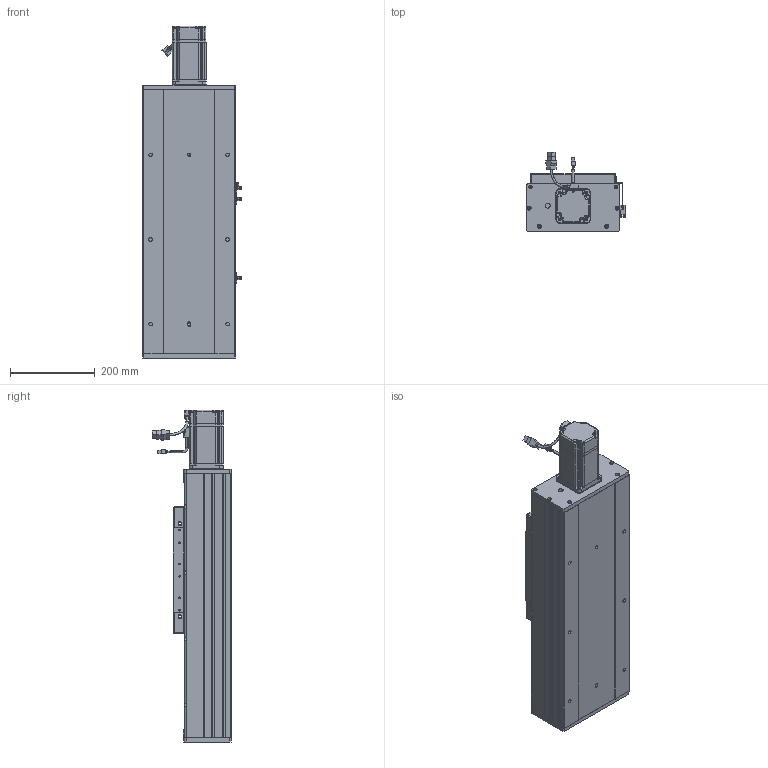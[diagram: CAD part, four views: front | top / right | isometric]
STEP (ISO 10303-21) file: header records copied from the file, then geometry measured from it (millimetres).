
FILE_DESCRIPTION (( 'STEP AP203' ), '1' );
FILE_NAME ('RY220F-L2525-300-MK.SLDASM_200.step', '2022-07-04T01:03:08', ( '' ), ( '' ), 'SwSTEP 2.0', 'SolidWorks 2016', '' );
FILE_SCHEMA (( 'CONFIG_CONTROL_DESIGN' ));
Length unit declared in the file: millimetre
Products named in the file (15): RY220电机支撑座FK20（PCD90M6）; RY220F-祥凄詩湍-MK-300_200; 怢湛750W_ECMA-CX0807ES; 滅袉蝶18-24; RY220F-奻裔啣-300_200; 滅袉蝶18-20; RY220F-滅鳥奻裔; RY220F-672覜茼んえ; 覜茼ん672; RY220F綴裔啣; RY220F-詩湍揤踡輸; RY220Fヶ裔啣; RY220F菁釱MK-300_200; RY220F臏賑釱25-32佪裝; RY220F-L2525-300-MK.SLDASM_200
Assembly tree (20 placements, depth 2):
  RY220F-L2525-300-MK.SLDASM_200
    RY220F菁釱MK-300_200
    RY220电机支撑座FK20（PCD90M6）
    RY220F-奻裔啣-300_200  x2
    怢湛750W_ECMA-CX0807ES
    RY220F臏賑釱25-32佪裝
    RY220F-滅鳥奻裔
    滅袉蝶18-20
    滅袉蝶18-24  x3
    RY220Fヶ裔啣
    RY220F綴裔啣
    RY220F-祥凄詩湍-MK-300_200
    RY220F-詩湍揤踡輸  x2
    覜茼ん672  x3
    RY220F-672覜茼んえ
Bounding box: 233.7 x 187.27 x 784.3 mm (x, y, z)
Volume: 7759830.2 mm3; surface area: 1826437.5 mm2
Topology: 21 solids, 21 shells, 2120 faces, 5838 edges, 3678 vertices
Faces by surface type: cylinder 940, plane 874, cone 247, bspline 33, sphere 16, torus 10
Entity records: 65230 total; most frequent: CARTESIAN_POINT 17889, ORIENTED_EDGE 9658, DIRECTION 9252, EDGE_CURVE 4829, AXIS2_PLACEMENT_3D 3260, VERTEX_POINT 3144, LINE 2732, VECTOR 2732
